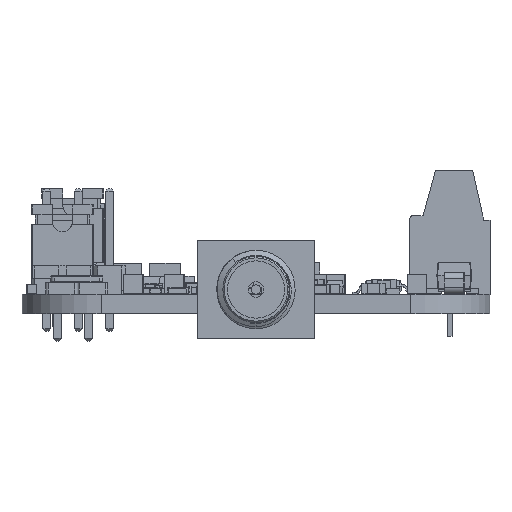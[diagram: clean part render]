
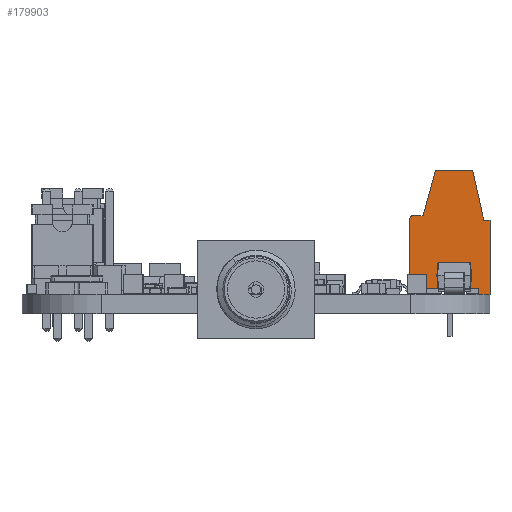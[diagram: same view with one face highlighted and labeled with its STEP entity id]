
A CAD part, front view. The second image highlights one B-rep face of the part: STEP entity #179903.
In plain terms, the highlighted planar face has unit normal (0, -1, 0) as drawn and (-1, 0, 0) by its records, which use the part's own axes.
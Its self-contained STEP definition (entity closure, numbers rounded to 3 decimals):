
#2800 = CARTESIAN_POINT ( 'NONE',  ( -6.58, -2.35, -9.5 ) ) ;
#3332 = EDGE_CURVE ( 'NONE', #17459, #65326, #92368, .T. ) ;
#8553 = LINE ( 'NONE', #118419, #160419 ) ;
#11396 = DIRECTION ( 'NONE',  ( 0., 1., 0. ) ) ;
#11414 = VERTEX_POINT ( 'NONE', #153731 ) ;
#11924 = CARTESIAN_POINT ( 'NONE',  ( -6.58, 2.95, -3.95 ) ) ;
#12422 = DIRECTION ( 'NONE',  ( -1., 0., 0. ) ) ;
#13797 = DIRECTION ( 'NONE',  ( -1., 0., 0. ) ) ;
#15292 = VERTEX_POINT ( 'NONE', #85279 ) ;
#17459 = VERTEX_POINT ( 'NONE', #110777 ) ;
#24791 = EDGE_CURVE ( 'NONE', #188622, #69279, #8553, .T. ) ;
#24822 = CARTESIAN_POINT ( 'NONE',  ( -6.58, -2.75, -4. ) ) ;
#25286 = FACE_OUTER_BOUND ( 'NONE', #126153, .T. ) ;
#25919 = VECTOR ( 'NONE', #168880, 1000. ) ;
#28689 = DIRECTION ( 'NONE',  ( 0., 0., 1. ) ) ;
#28973 = VERTEX_POINT ( 'NONE', #182438 ) ;
#30828 = ORIENTED_EDGE ( 'NONE', *, *, #3332, .T. ) ;
#31240 = CARTESIAN_POINT ( 'NONE',  ( -6.58, 3.25, -3.95 ) ) ;
#31805 = ORIENTED_EDGE ( 'NONE', *, *, #24791, .T. ) ;
#33840 = CARTESIAN_POINT ( 'NONE',  ( -6.58, 0., -10. ) ) ;
#34196 = CARTESIAN_POINT ( 'NONE',  ( -6.58, 2.15, -3.65 ) ) ;
#38236 = CARTESIAN_POINT ( 'NONE',  ( -6.58, 2.95, -3.65 ) ) ;
#41960 = EDGE_CURVE ( 'NONE', #93082, #90399, #62963, .T. ) ;
#42545 = EDGE_CURVE ( 'NONE', #65326, #15292, #116275, .T. ) ;
#44461 = LINE ( 'NONE', #176593, #104297 ) ;
#44513 = DIRECTION ( 'NONE',  ( 0., -1., 0. ) ) ;
#45663 = EDGE_CURVE ( 'NONE', #134736, #11414, #91262, .T. ) ;
#46395 = VERTEX_POINT ( 'NONE', #38236 ) ;
#47546 = DIRECTION ( 'NONE',  ( 0., 0., -1. ) ) ;
#49555 = EDGE_CURVE ( 'NONE', #28973, #69279, #75124, .T. ) ;
#51862 = DIRECTION ( 'NONE',  ( 0., 0.22, 0.976 ) ) ;
#52361 = ORIENTED_EDGE ( 'NONE', *, *, #41960, .F. ) ;
#56812 = VECTOR ( 'NONE', #102468, 1000. ) ;
#60588 = AXIS2_PLACEMENT_3D ( 'NONE', #11924, #13797, #28689 ) ;
#62963 = LINE ( 'NONE', #151280, #67416 ) ;
#63010 = DIRECTION ( 'NONE',  ( 0., 1., 0. ) ) ;
#64087 = ORIENTED_EDGE ( 'NONE', *, *, #70026, .T. ) ;
#65326 = VERTEX_POINT ( 'NONE', #92906 ) ;
#67416 = VECTOR ( 'NONE', #136349, 1000. ) ;
#69279 = VERTEX_POINT ( 'NONE', #141060 ) ;
#70026 = EDGE_CURVE ( 'NONE', #46395, #166867, #178268, .T. ) ;
#71744 = PLANE ( 'NONE',  #71952 ) ;
#71952 = AXIS2_PLACEMENT_3D ( 'NONE', #144952, #12422, #114733 ) ;
#73076 = DIRECTION ( 'NONE',  ( 0., 1., 0. ) ) ;
#75124 = LINE ( 'NONE', #182653, #82114 ) ;
#76296 = DIRECTION ( 'NONE',  ( 0., 1., 0. ) ) ;
#76578 = VERTEX_POINT ( 'NONE', #34196 ) ;
#81890 = VECTOR ( 'NONE', #63010, 1000. ) ;
#82114 = VECTOR ( 'NONE', #47546, 1000. ) ;
#82738 = EDGE_CURVE ( 'NONE', #134736, #17459, #44461, .T. ) ;
#84681 = VECTOR ( 'NONE', #138639, 1000. ) ;
#84788 = CARTESIAN_POINT ( 'NONE',  ( -6.58, 2.35, -9.5 ) ) ;
#85279 = CARTESIAN_POINT ( 'NONE',  ( -6.58, 1.15, 0. ) ) ;
#90399 = VERTEX_POINT ( 'NONE', #2800 ) ;
#91262 = LINE ( 'NONE', #118440, #56812 ) ;
#91310 = ORIENTED_EDGE ( 'NONE', *, *, #42545, .T. ) ;
#91336 = EDGE_CURVE ( 'NONE', #15292, #76578, #154091, .T. ) ;
#92368 = LINE ( 'NONE', #24822, #122110 ) ;
#92906 = CARTESIAN_POINT ( 'NONE',  ( -6.58, -1.85, 0. ) ) ;
#93082 = VERTEX_POINT ( 'NONE', #142373 ) ;
#94347 = CARTESIAN_POINT ( 'NONE',  ( -6.58, 3.25, -3.95 ) ) ;
#95595 = EDGE_CURVE ( 'NONE', #76578, #46395, #139798, .T. ) ;
#100805 = VECTOR ( 'NONE', #11396, 1000. ) ;
#102468 = DIRECTION ( 'NONE',  ( 0., 0., -1. ) ) ;
#103258 = ORIENTED_EDGE ( 'NONE', *, *, #49555, .F. ) ;
#104297 = VECTOR ( 'NONE', #73076, 1000. ) ;
#108097 = VECTOR ( 'NONE', #110457, 1000. ) ;
#110457 = DIRECTION ( 'NONE',  ( 0., 0.264, -0.964 ) ) ;
#110777 = CARTESIAN_POINT ( 'NONE',  ( -6.58, -2.75, -4. ) ) ;
#112980 = ORIENTED_EDGE ( 'NONE', *, *, #169517, .T. ) ;
#114733 = DIRECTION ( 'NONE',  ( 0., 0., 1. ) ) ;
#116275 = LINE ( 'NONE', #121987, #81890 ) ;
#118419 = CARTESIAN_POINT ( 'NONE',  ( -6.58, 0., -10. ) ) ;
#118440 = CARTESIAN_POINT ( 'NONE',  ( -6.58, -3.25, -10. ) ) ;
#118750 = CARTESIAN_POINT ( 'NONE',  ( -6.58, 3.25, -10. ) ) ;
#121987 = CARTESIAN_POINT ( 'NONE',  ( -6.58, 0., 0. ) ) ;
#122110 = VECTOR ( 'NONE', #51862, 1000. ) ;
#123077 = EDGE_CURVE ( 'NONE', #188622, #166867, #123662, .T. ) ;
#123662 = LINE ( 'NONE', #94347, #84681 ) ;
#125641 = ORIENTED_EDGE ( 'NONE', *, *, #123077, .F. ) ;
#126153 = EDGE_LOOP ( 'NONE', ( #91310, #170333, #130881, #64087, #125641, #31805, #103258, #161953, #52361, #112980, #183627, #144468, #30828 ) ) ;
#130881 = ORIENTED_EDGE ( 'NONE', *, *, #95595, .T. ) ;
#132923 = VECTOR ( 'NONE', #76296, 1000. ) ;
#134736 = VERTEX_POINT ( 'NONE', #160325 ) ;
#136349 = DIRECTION ( 'NONE',  ( 0., 0., 1. ) ) ;
#138639 = DIRECTION ( 'NONE',  ( 0., 0., 1. ) ) ;
#138717 = CARTESIAN_POINT ( 'NONE',  ( -6.58, 1.15, 0. ) ) ;
#139798 = LINE ( 'NONE', #146899, #132923 ) ;
#141060 = CARTESIAN_POINT ( 'NONE',  ( -6.58, 2.35, -10. ) ) ;
#142373 = CARTESIAN_POINT ( 'NONE',  ( -6.58, -2.35, -10. ) ) ;
#144468 = ORIENTED_EDGE ( 'NONE', *, *, #82738, .T. ) ;
#144952 = CARTESIAN_POINT ( 'NONE',  ( -6.58, 0., 0. ) ) ;
#145979 = EDGE_CURVE ( 'NONE', #90399, #28973, #167607, .T. ) ;
#146899 = CARTESIAN_POINT ( 'NONE',  ( -6.58, 0., -3.65 ) ) ;
#151280 = CARTESIAN_POINT ( 'NONE',  ( -6.58, -2.35, -9.5 ) ) ;
#153731 = CARTESIAN_POINT ( 'NONE',  ( -6.58, -3.25, -10. ) ) ;
#154091 = LINE ( 'NONE', #138717, #108097 ) ;
#157100 = LINE ( 'NONE', #33840, #25919 ) ;
#160325 = CARTESIAN_POINT ( 'NONE',  ( -6.58, -3.25, -4. ) ) ;
#160419 = VECTOR ( 'NONE', #44513, 1000. ) ;
#161953 = ORIENTED_EDGE ( 'NONE', *, *, #145979, .F. ) ;
#166867 = VERTEX_POINT ( 'NONE', #31240 ) ;
#167607 = LINE ( 'NONE', #84788, #100805 ) ;
#168880 = DIRECTION ( 'NONE',  ( 0., -1., 0. ) ) ;
#169517 = EDGE_CURVE ( 'NONE', #93082, #11414, #157100, .T. ) ;
#170333 = ORIENTED_EDGE ( 'NONE', *, *, #91336, .T. ) ;
#176593 = CARTESIAN_POINT ( 'NONE',  ( -6.58, 0., -4. ) ) ;
#178268 = CIRCLE ( 'NONE', #60588, 0.3 ) ;
#179903 = ADVANCED_FACE ( 'NONE', ( #25286 ), #71744, .T. ) ;
#182438 = CARTESIAN_POINT ( 'NONE',  ( -6.58, 2.35, -9.5 ) ) ;
#182653 = CARTESIAN_POINT ( 'NONE',  ( -6.58, 2.35, -10. ) ) ;
#183627 = ORIENTED_EDGE ( 'NONE', *, *, #45663, .F. ) ;
#188622 = VERTEX_POINT ( 'NONE', #118750 ) ;
